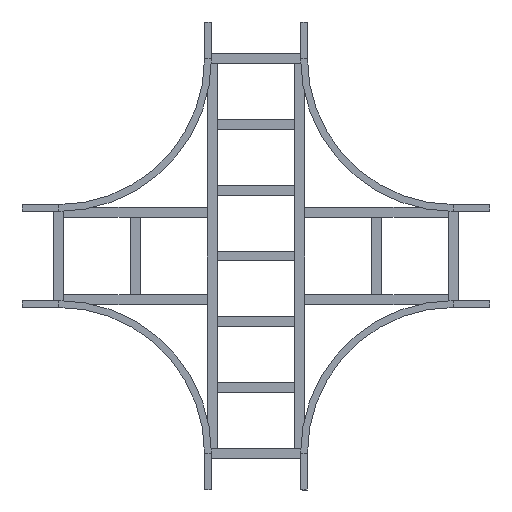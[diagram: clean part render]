
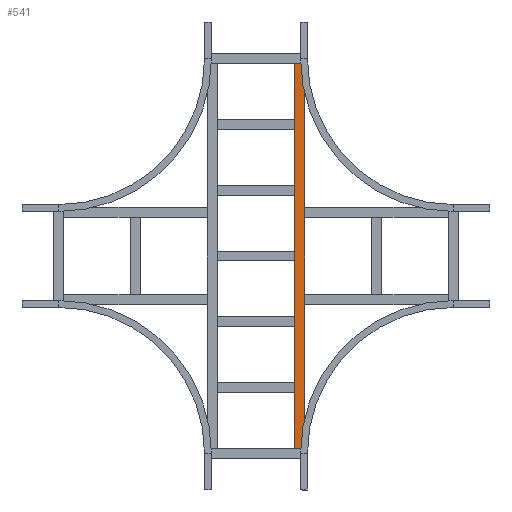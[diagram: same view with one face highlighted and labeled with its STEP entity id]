
A CAD part, front view. The second image highlights one B-rep face of the part: STEP entity #541.
In plain terms, the highlighted planar face has unit normal (0, -1, 0).
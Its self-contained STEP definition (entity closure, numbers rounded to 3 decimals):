
#39 = DIRECTION ( 'NONE',  ( 0., 0., -1. ) ) ;
#50 = EDGE_LOOP ( 'NONE', ( #534, #2290, #825, #1250 ) ) ;
#380 = VECTOR ( 'NONE', #2499, 1000. ) ;
#398 = LINE ( 'NONE', #1059, #2622 ) ;
#403 = CARTESIAN_POINT ( 'NONE',  ( 779.75, 0., 20.25 ) ) ;
#410 = DIRECTION ( 'NONE',  ( -1., 0., 0. ) ) ;
#472 = LINE ( 'NONE', #2552, #1631 ) ;
#534 = ORIENTED_EDGE ( 'NONE', *, *, #1906, .T. ) ;
#541 = ADVANCED_FACE ( 'NONE', ( #2607 ), #1607, .F. ) ;
#825 = ORIENTED_EDGE ( 'NONE', *, *, #2556, .F. ) ;
#907 = VERTEX_POINT ( 'NONE', #1069 ) ;
#1059 = CARTESIAN_POINT ( 'NONE',  ( 779.75, 0., 20.25 ) ) ;
#1069 = CARTESIAN_POINT ( 'NONE',  ( 779.75, 0., -20.25 ) ) ;
#1144 = CARTESIAN_POINT ( 'NONE',  ( -779.75, 0., -20.25 ) ) ;
#1250 = ORIENTED_EDGE ( 'NONE', *, *, #1642, .T. ) ;
#1376 = DIRECTION ( 'NONE',  ( 0., 1., 0. ) ) ;
#1454 = VERTEX_POINT ( 'NONE', #1144 ) ;
#1478 = CARTESIAN_POINT ( 'NONE',  ( 779.75, 0., -20.25 ) ) ;
#1481 = CARTESIAN_POINT ( 'NONE',  ( -779.75, 0., 20.25 ) ) ;
#1607 = PLANE ( 'NONE',  #1849 ) ;
#1631 = VECTOR ( 'NONE', #39, 1000. ) ;
#1642 = EDGE_CURVE ( 'NONE', #1984, #2509, #398, .T. ) ;
#1807 = VECTOR ( 'NONE', #2139, 1000. ) ;
#1849 = AXIS2_PLACEMENT_3D ( 'NONE', #2383, #1376, #2638 ) ;
#1860 = LINE ( 'NONE', #1481, #380 ) ;
#1906 = EDGE_CURVE ( 'NONE', #2509, #1454, #1860, .T. ) ;
#1984 = VERTEX_POINT ( 'NONE', #403 ) ;
#2139 = DIRECTION ( 'NONE',  ( -1., 0., 0. ) ) ;
#2290 = ORIENTED_EDGE ( 'NONE', *, *, #2610, .F. ) ;
#2338 = LINE ( 'NONE', #1478, #1807 ) ;
#2374 = CARTESIAN_POINT ( 'NONE',  ( -779.75, 0., 20.25 ) ) ;
#2383 = CARTESIAN_POINT ( 'NONE',  ( 779.75, 0., 20.25 ) ) ;
#2499 = DIRECTION ( 'NONE',  ( 0., 0., -1. ) ) ;
#2509 = VERTEX_POINT ( 'NONE', #2374 ) ;
#2552 = CARTESIAN_POINT ( 'NONE',  ( 779.75, 0., 20.25 ) ) ;
#2556 = EDGE_CURVE ( 'NONE', #1984, #907, #472, .T. ) ;
#2607 = FACE_OUTER_BOUND ( 'NONE', #50, .T. ) ;
#2610 = EDGE_CURVE ( 'NONE', #907, #1454, #2338, .T. ) ;
#2622 = VECTOR ( 'NONE', #410, 1000. ) ;
#2638 = DIRECTION ( 'NONE',  ( 0., 0., 1. ) ) ;
